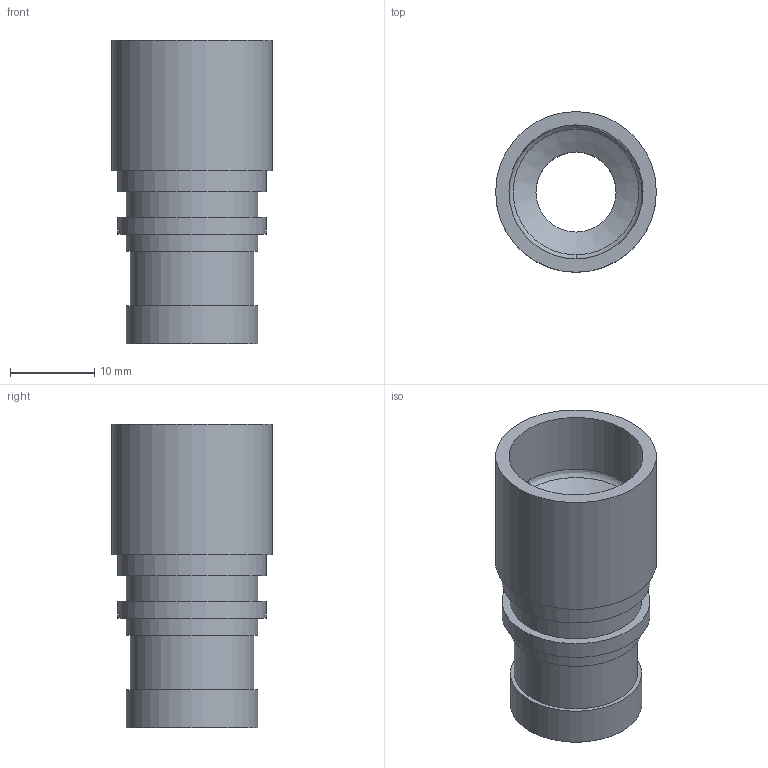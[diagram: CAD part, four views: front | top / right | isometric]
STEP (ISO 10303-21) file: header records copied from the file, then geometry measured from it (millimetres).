
FILE_DESCRIPTION (( 'STEP AP203' ), '1' );
FILE_NAME ('70-12.7R19.05-PH.STEP', '2013-09-19T10:46:59', ( '' ), ( '' ), 'SwSTEP 2.0', 'SolidWorks 2012', '' );
FILE_SCHEMA (( 'CONFIG_CONTROL_DESIGN' ));
Length unit declared in the file: millimetre
Products named in the file (1): 70-12.7R19.05-PH
Bounding box: 19.05 x 19.05 x 36 mm (x, y, z)
Volume: 4365.8 mm3; surface area: 3781.6 mm2
Topology: 1 solids, 1 shells, 22 faces, 38 edges, 25 vertices
Faces by surface type: cylinder 10, plane 9, bspline 2, cone 1
Full cylindrical faces by diameter (mm): 9.5 x1, 12.65 x1, 14.65 x1, 15.6 x3, 15.9 x1, 17.6 x2, 19.05 x1
Entity records: 567 total; most frequent: CARTESIAN_POINT 107, DIRECTION 88, ORIENTED_EDGE 50, AXIS2_PLACEMENT_3D 44, EDGE_LOOP 42, FACE_OUTER_BOUND 32, EDGE_CURVE 25, CIRCLE 23
